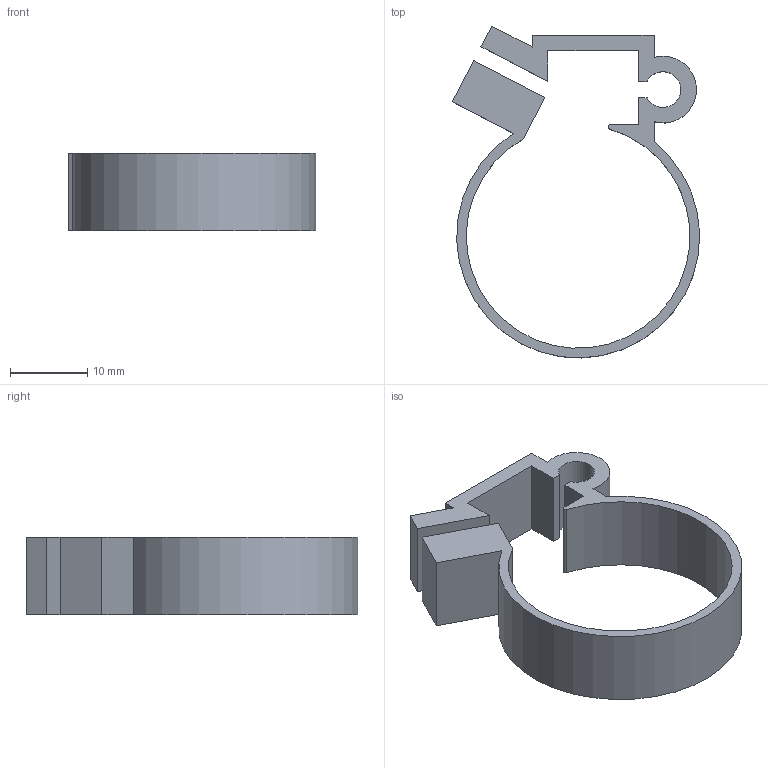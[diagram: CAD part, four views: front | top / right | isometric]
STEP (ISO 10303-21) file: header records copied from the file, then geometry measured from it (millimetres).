
FILE_DESCRIPTION( ( 'Unknown' ), '1' );
FILE_NAME( 'Z:/bereich/BECH/Services/me_CAD/Solid Edge/Models/Dokumentationen/Magnetoresitiv/Zuberhörteile/Vereinfachte Modelle/Neutralformate/xf-29.stp', 'Unknown', ( 'Unknown' ), ( 'Unknown' ), 'XStep 1.0', 'Unknown', ' ' );
FILE_SCHEMA( ( 'CONFIG_CONTROL_DESIGN' ) );
Length unit declared in the file: millimetre
Products named in the file (1): 1
Bounding box: 32.05 x 43.01 x 10 mm (x, y, z)
Volume: 2678.1 mm3; surface area: 3436.5 mm2
Topology: 1 solids, 1 shells, 25 faces, 69 edges, 46 vertices
Faces by surface type: plane 20, cylinder 5
Entity records: 837 total; most frequent: CARTESIAN_POINT 141, ORIENTED_EDGE 138, DIRECTION 131, EDGE_CURVE 69, LINE 59, VECTOR 59, VERTEX_POINT 46, AXIS2_PLACEMENT_3D 36
